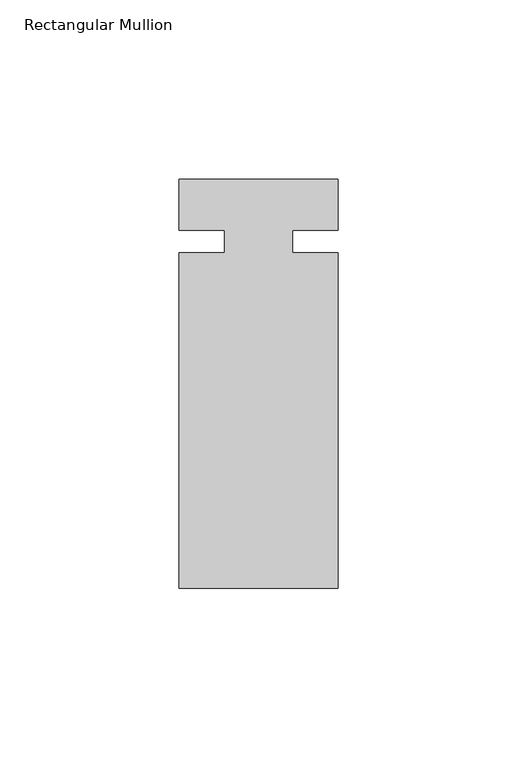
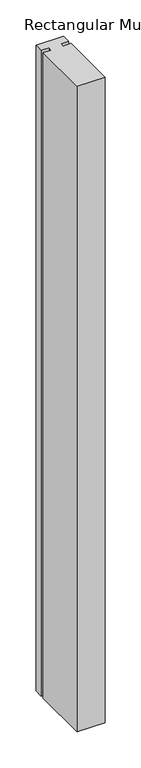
"""IFC4 building model written with IfcOpenShell, lengths in millimetres: member geometry, Rectangular Mullion : Kawneer-TRIFAB_VG_450_BACK_SB_Horizontal."""

from ifc_helpers import new_model, si_unit, frame, origin, place, context, project, spatial, polyline, outline, extrude, source, transform, mapped, element, save


def rectangular_mullion_b1836c23(model_context):
    return source(origin(), model_context, "Body", "SweptSolid", [
        extrude(outline(polyline([(26.5594027, 17.4625), (26.5594027, 3.2050658), (13.8576322, 3.2050658), (13.8576322, -3.1449342), (26.5594027, -3.1449342), (26.5594027, -96.8375), (-17.8905973, -96.8375), (-17.8905973, -3.1449342), (-5.1905973, -3.1449342), (-5.1905973, 3.2050658), (-17.8905973, 3.2050658), (-17.8905973, 17.4625), (26.5594027, 17.4625)])), frame((0.0, 0.0, -1093.0094133), z_axis=(0.0, 0.0, 1.0), x_axis=(1.0, 0.0, 0.0)), (0.0, 0.0, 1.0), 1093.0094133),
    ])


if __name__ == "__main__":
    model = new_model("IFC4")
    model_context = context("Model", 3, world=origin())
    ifc_project = project(units=[si_unit("LENGTHUNIT", "METRE", prefix="MILLI")], contexts=[model_context])
    site = spatial("IfcSite", under=ifc_project)
    building = spatial("IfcBuilding", under=site)
    placement = place(None, origin())
    rectangular_mullion_shape = rectangular_mullion_b1836c23(model_context)
    element("IfcMember", 1, ObjectType="Rectangular Mullion : Kawneer-TRIFAB_VG_450_BACK_SB_Horizontal", at=placement, inside=building, context=model_context, shape_type="MappedRepresentation", body=[
        mapped(rectangular_mullion_shape, transform((0.0, 0.0, 0.0), x_axis=(1.0, 0.0, 0.0), y_axis=(0.0, 1.0, 0.0), z_axis=(0.0, 0.0, 1.0))),
    ])
    save(model, "model.ifc")
